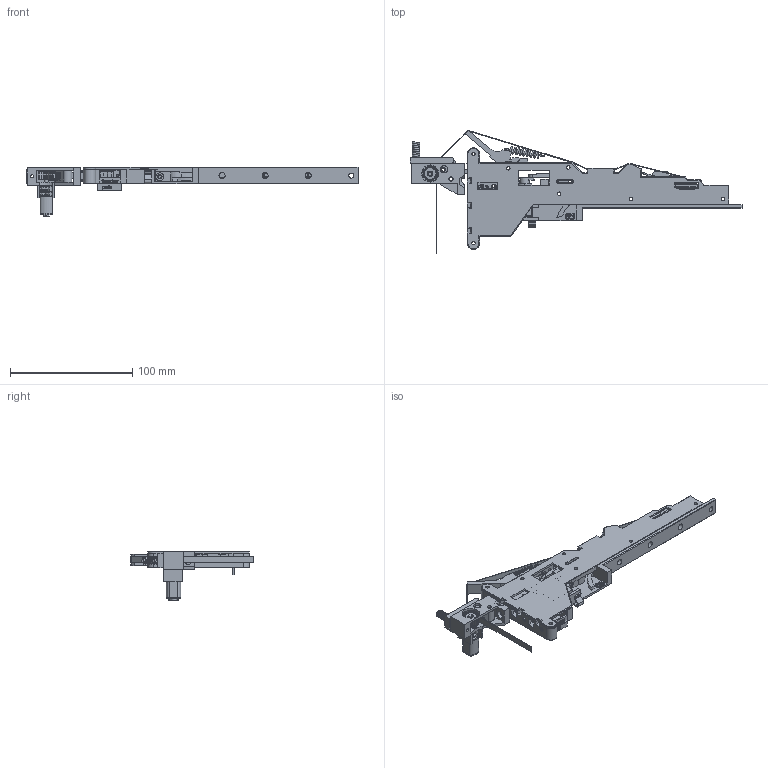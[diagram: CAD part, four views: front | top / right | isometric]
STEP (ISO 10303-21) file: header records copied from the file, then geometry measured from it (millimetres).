
FILE_DESCRIPTION (( 'STEP AP214' ), '1' );
FILE_NAME ('s0816_feeder_V05_8mm.STEP', '2020-12-29T17:29:56', ( 'Mica' ), ( '' ), 'SwSTEP 2.0', 'SolidWorks 2013', '' );
FILE_SCHEMA (( 'AUTOMOTIVE_DESIGN' ));
Length unit declared in the file: millimetre
Products named in the file (26): base_cover; tape_stripe; cover_tape; lever_servo_advancer; n20-motor-pcbv3; motor_assembly; disabler; servoarm; spring_pull; PRT0002; tape_pushdown_springloaded; base; lever_coverswitch_pullingSpring; spooler; s0816_feeder_V05_8mm; spring; DIN - Spur gear 0.7M 17T 20PA 5,5FW ---S17A75H50L7N_driven_DIN - Spur gear 0.7M 17T 20PA 5,5FW ---S1; DIN - Spur gear 0.7M 17T 20PA 5,5FW ---S17A75H50L7N_DIN - Spur gear 0.7M 17T 20PA 5,5FW ---S17A75H50; vorspanner_rad; gm12-n20; schaft_g12-n20_Predeterminado; gm12-n20_Predeterminado; spooler_mountplate_v2; Micro Switch Button; petg_spring_advancer; feeder_pin_new
Assembly tree (25 placements, depth 4):
  s0816_feeder_V05_8mm
    base
    motor_assembly
      PRT0002
      servoarm
    lever_servo_advancer
    tape_stripe
    base_cover
    feeder_pin_new
    petg_spring_advancer
    Micro Switch Button
    spooler
      spooler_mountplate_v2
      gm12-n20
        gm12-n20_Predeterminado
        schaft_g12-n20_Predeterminado
      vorspanner_rad
      DIN - Spur gear 0.7M 17T 20PA 5,5FW ---S17A75H50L7N_DIN - Spur gear 0.7M 17T 20PA 5,5FW ---S17A75H50
      DIN - Spur gear 0.7M 17T 20PA 5,5FW ---S17A75H50L7N_driven_DIN - Spur gear 0.7M 17T 20PA 5,5FW ---S1
      spring
    lever_coverswitch_pullingSpring
    tape_pushdown_springloaded
    spring_pull
    disabler
    n20-motor-pcbv3
    cover_tape
Bounding box: 271.4 x 100.71 x 40.31 mm (x, y, z)
Volume: 81191.3 mm3; surface area: 81696 mm2
Topology: 40 solids, 40 shells, 2459 faces, 6204 edges, 3914 vertices
Faces by surface type: plane 1274, cylinder 602, cone 366, bspline 173, torus 24, sphere 20
Entity records: 108625 total; most frequent: CARTESIAN_POINT 28601, ORIENTED_EDGE 12348, DIRECTION 11697, EDGE_CURVE 6174, AXIS2_PLACEMENT_3D 3951, VERTEX_POINT 3912, LINE 3795, VECTOR 3795
